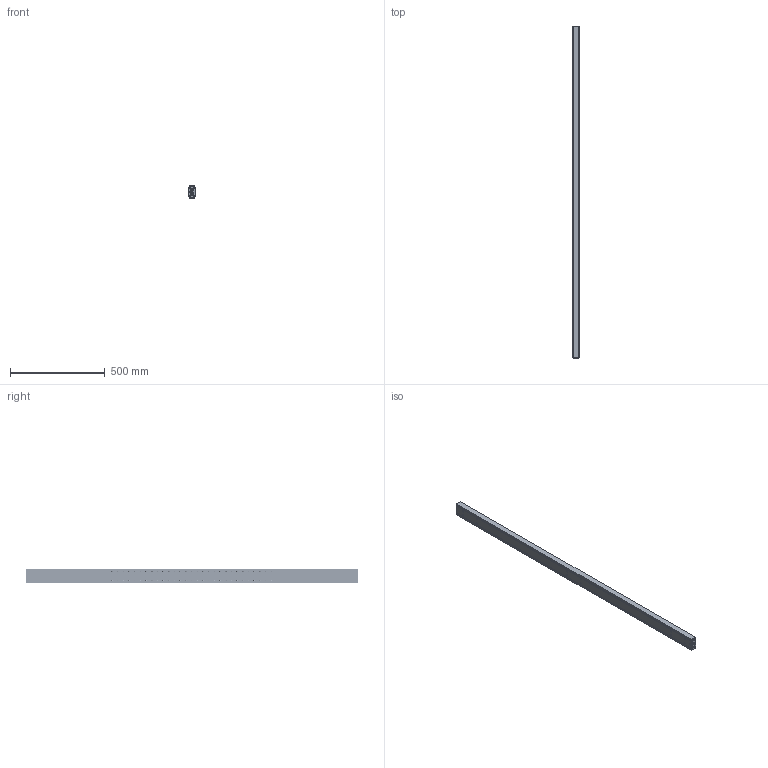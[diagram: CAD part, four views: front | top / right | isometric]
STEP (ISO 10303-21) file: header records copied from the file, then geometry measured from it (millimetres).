
FILE_DESCRIPTION(/* description */ (''),/* implementation_level */ '2;1');
FILE_NAME(/* name */ 'D:\Zeichnungen Schienen Komplett\MX-DTP70\MX-DTP70.175\MX-DTP70.175_eingefahren.step',/* time_stamp */ '2022-08-31T08:08:27+02:00',/* author */ ('zmile'),/* organization */ (''),/* preprocessor_version */ 'ST-DEVELOPER v16.13',/* originating_system */ 'AutoCAD Mechanical',/* authorisation */ '');
FILE_SCHEMA (('AUTOMOTIVE_DESIGN { 1 0 10303 214 3 1 1 }'));
Products named in the file (1): Product
Bounding box: 32 x 1750 x 70 mm (x, y, z)
Volume: 3115444.8 mm3; surface area: 1109035.8 mm2
Topology: 123 solids, 123 shells, 450 faces, 1288 edges, 856 vertices
Faces by surface type: cylinder 156, sphere 116, plane 86, bspline 86, torus 6
Full cylindrical faces by diameter (mm): 9 x116, 13 x2
Entity records: 194537 total; most frequent: CARTESIAN_POINT 184103, ORIENTED_EDGE 1860, DIRECTION 1822, EDGE_CURVE 930, EDGE_LOOP 862, VERTEX_POINT 854, AXIS2_PLACEMENT_3D 805, FACE_OUTER_BOUND 450
